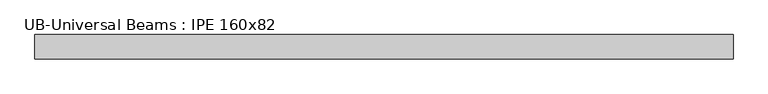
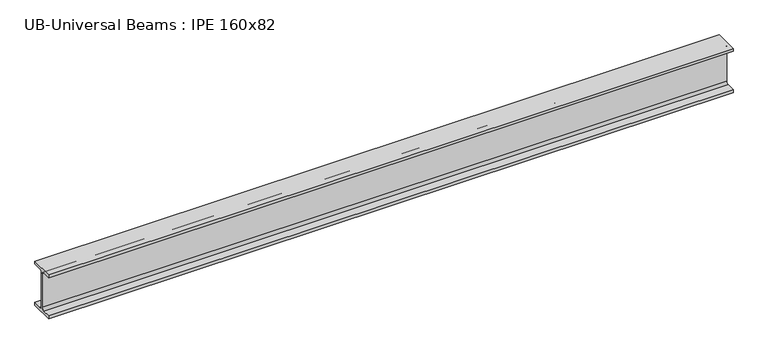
"""IFC4 building model written with IfcOpenShell, lengths in millimetres: beam geometry, UB-Universal Beams : IPE 160x82."""

from ifc_helpers import new_model, si_unit, point, frame, frame_2d, origin, place, context, project, spatial, polyline, circle_curve, trimmed, segment, composite_curve, outline, extrude, source, transform, mapped, element, save


def ub_universal_beams_ipe_160x82_7de70bc2(model_context):
    return source(origin(), model_context, "Body", "SweptSolid", [
        extrude(outline(composite_curve([segment(polyline([(-41.0, -69.8), (-11.9, -69.8)]), True, "CONTINUOUS"), segment(trimmed(circle_curve(frame_2d((-11.9, -60.9)), 8.9), [point((-11.9, -69.8))], [point((-3.0, -60.9))], True, "CARTESIAN"), True, "CONTINUOUS"), segment(polyline([(-3.0, -60.9), (-3.0, 60.9)]), True, "CONTINUOUS"), segment(trimmed(circle_curve(frame_2d((-11.9, 60.9)), 8.9), [point((-3.0, 60.9))], [point((-11.9, 69.8))], True, "CARTESIAN"), True, "CONTINUOUS"), segment(polyline([(-11.9, 69.8), (-41.0, 69.8), (-41.0, 80.0), (41.0, 80.0), (41.0, 69.8), (11.9, 69.8)]), True, "CONTINUOUS"), segment(trimmed(circle_curve(frame_2d((11.9, 60.9)), 8.9), [point((11.9, 69.8))], [point((3.0, 60.9))], True, "CARTESIAN"), True, "CONTINUOUS"), segment(polyline([(3.0, 60.9), (3.0, -60.9)]), True, "CONTINUOUS"), segment(trimmed(circle_curve(frame_2d((11.9, -60.9)), 8.9), [point((3.0, -60.9))], [point((11.9, -69.8))], True, "CARTESIAN"), True, "CONTINUOUS"), segment(polyline([(11.9, -69.8), (41.0, -69.8), (41.0, -80.0), (-41.0, -80.0), (-41.0, -69.8)]), True, "CONTINUOUS")], self_intersect=False)), frame((-1094.65, 0.0, 0.0), z_axis=(1.0, 0.0, 0.0), x_axis=(0.0, 1.0, 0.0)), (0.0, 0.0, 1.0), 2352.0),
    ])


if __name__ == "__main__":
    model = new_model("IFC4")
    model_context = context("Model", 3, world=origin())
    ifc_project = project(units=[si_unit("LENGTHUNIT", "METRE", prefix="MILLI")], contexts=[model_context])
    site = spatial("IfcSite", under=ifc_project)
    building = spatial("IfcBuilding", under=site)
    placement = place(None, origin())
    ub_universal_beams_ipe_160x82_shape = ub_universal_beams_ipe_160x82_7de70bc2(model_context)
    element("IfcBeam", 1, ObjectType="UB-Universal Beams : IPE 160x82", at=placement, inside=building, context=model_context, shape_type="MappedRepresentation", body=[
        mapped(ub_universal_beams_ipe_160x82_shape, transform((0.0, 0.0, 0.0), x_axis=(1.0, 0.0, 0.0), y_axis=(0.0, 1.0, 0.0), z_axis=(0.0, 0.0, 1.0))),
    ])
    save(model, "model.ifc")
